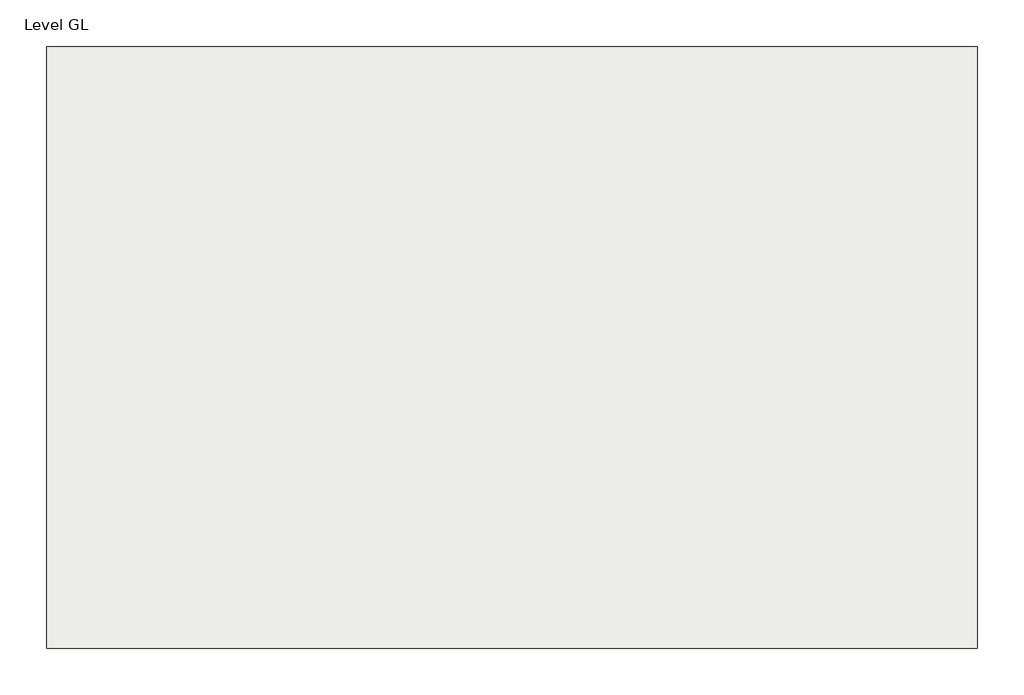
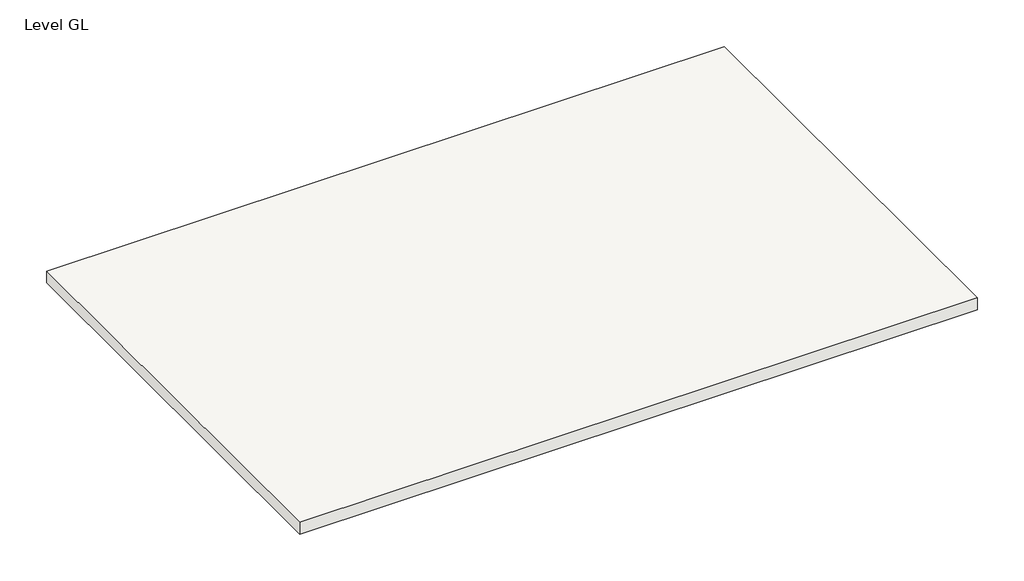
# One storey: 1 slab.
"""IFC4 building model written with IfcOpenShell, lengths in millimetres."""

import ifcopenshell
import ifcopenshell.guid

model = None  # the IFC model being written
_history = None  # IfcOwnerHistory: only IFC2X3 demands one
_inside = {}  # id of a spatial element -> (the spatial element, [elements in it])
_under = {}  # id of a project, library or spatial element -> (it, [spatial elements below it])
_declared = {}  # id of a project -> (the project, [libraries it declares])
_typed = {}  # id of a type object -> (the type object, [elements of that type])
_made_of = {}  # id of a material, layer set ... -> (it, [elements and type objects made of it])


def new_model(schema):
    """Start an empty IFC model of exactly this schema.

    Asked for "IFC4X3", IfcOpenShell would pick the latest addendum, in which some entities
    have other attributes; the version numbers below select the first issue.
    IFC2X3 requires an IfcOwnerHistory on every rooted entity: one is made here for all.
    """
    global model, _history
    if schema == "IFC4X3":
        model = ifcopenshell.file(schema_version=(4, 3, 0, 0))
    else:
        model = ifcopenshell.file(schema=schema)
    _inside.clear()
    _under.clear()
    _declared.clear()
    _typed.clear()
    _made_of.clear()
    _history = None
    if model.schema == "IFC2X3":
        org = make("IfcOrganization", Name="unknown")
        user = make(
            "IfcPersonAndOrganization",
            ThePerson=make("IfcPerson", FamilyName="unknown"),
            TheOrganization=org,
        )
        app = make(
            "IfcApplication",
            ApplicationDeveloper=org,
            Version="unknown",
            ApplicationFullName="unknown",
            ApplicationIdentifier="unknown",
        )
        _history = make(
            "IfcOwnerHistory",
            OwningUser=user,
            OwningApplication=app,
            ChangeAction="ADDED",
            CreationDate=0,
        )
    return model


def make(cls, **values):
    """One entity of the class cls with the attributes given. An attribute that is None is left unset."""
    return model.create_entity(
        cls, **{name: value for name, value in values.items() if value is not None}
    )


def rooted(cls, **values):
    """An entity with a GlobalId (a new one), such as an element, a storey or a relation."""
    return make(cls, GlobalId=ifcopenshell.guid.new(), OwnerHistory=_history, **values)


def si_unit(unit_type, name, prefix=None):
    """IfcSIUnit, for example si_unit("LENGTHUNIT", "METRE", prefix="MILLI")."""
    return make("IfcSIUnit", UnitType=unit_type, Prefix=prefix, Name=name)


def assignment(units):
    """IfcUnitAssignment: the units of a project."""
    return None if units is None else make("IfcUnitAssignment", Units=units)


def point(xyz):
    """IfcCartesianPoint."""
    return None if xyz is None else make("IfcCartesianPoint", Coordinates=xyz)


def direction(xyz):
    """IfcDirection."""
    return None if xyz is None else make("IfcDirection", DirectionRatios=xyz)


def frame(location, z_axis=None, x_axis=None):
    """IfcAxis2Placement3D, a coordinate frame: its origin and axes. An axis left out is left unset."""
    return make(
        "IfcAxis2Placement3D",
        Location=point(location),
        Axis=direction(z_axis),
        RefDirection=direction(x_axis),
    )


def origin():
    """The frame at (0, 0, 0) with its axes left unset."""
    return frame((0.0, 0.0, 0.0))


def place(relative_to, where):
    """IfcLocalPlacement: puts the frame where relative to a parent placement (None: the world)."""
    return make(
        "IfcLocalPlacement", PlacementRelTo=relative_to, RelativePlacement=where
    )


def context(
    kind, dimensions, precision=None, world=None, true_north=None, identifier=None
):
    """IfcGeometricRepresentationContext, for example the 3D "Model" context."""
    return make(
        "IfcGeometricRepresentationContext",
        ContextIdentifier=identifier,
        ContextType=kind,
        CoordinateSpaceDimension=dimensions,
        Precision=precision,
        WorldCoordinateSystem=world,
        TrueNorth=true_north,
    )


def project(units=None, contexts=None):
    """IfcProject with its units and contexts."""
    return rooted(
        "IfcProject",
        Name="project",
        RepresentationContexts=contexts,
        UnitsInContext=assignment(units),
    )


def spatial(cls, under=None, at=None, **own):
    """A site, building, storey or space (cls), placed at a placement, below another one or the project."""
    s = rooted(cls, ObjectPlacement=at, **own)
    if under is not None:
        _under.setdefault(under.id(), (under, []))[1].append(s)
    return s


def polyline(points):
    """IfcPolyline through the points."""
    return make("IfcPolyline", Points=[point(p) for p in points])


def outline(outer, holes=None, kind="AREA"):
    """IfcArbitraryClosedProfileDef: a profile drawn as a closed curve; with holes, ...WithVoids."""
    if holes is None:
        return make("IfcArbitraryClosedProfileDef", ProfileType=kind, OuterCurve=outer)
    return make(
        "IfcArbitraryProfileDefWithVoids",
        ProfileType=kind,
        OuterCurve=outer,
        InnerCurves=holes,
    )


def extrude(swept, where, along, depth):
    """IfcExtrudedAreaSolid: the profile swept, set in the frame where, extruded along a direction by depth."""
    return make(
        "IfcExtrudedAreaSolid",
        SweptArea=swept,
        Position=where,
        ExtrudedDirection=direction(along),
        Depth=depth,
    )


def shape(context_of_items, identifier, shape_type, items):
    """IfcShapeRepresentation: the items that make up one representation, for example the "Body"."""
    return make(
        "IfcShapeRepresentation",
        ContextOfItems=context_of_items,
        RepresentationIdentifier=identifier,
        RepresentationType=shape_type,
        Items=items,
    )


def made_of(thing, what):
    """Note that an element or type object is made of a material, layer set ...; save() writes the relation."""
    if what is not None:
        _made_of.setdefault(what.id(), (what, []))[1].append(thing)
    return thing


def element(
    cls,
    number,
    at=None,
    inside=None,
    cuts=None,
    type_object=None,
    material=None,
    context=None,
    identifier="Body",
    shape_type=None,
    held_by="IfcProductDefinitionShape",
    body=None,
    shapes=None,
    **own,
):
    """One element of the class cls, such as IfcWall. Its Tag is "e" and its number.

    at: its placement. inside: the storey or other place that contains it. cuts: it is an
    opening in that element (IfcRelVoidsElement). A single representation is given by context,
    identifier, shape_type and body (its items); several are given by shapes. held_by: the class
    of the entity that holds the representations. save() writes the other relations.
    """
    e = rooted(cls, Tag="e%d" % number, ObjectPlacement=at, **own)
    if body is not None:
        shapes = [shape(context, identifier, shape_type, body)]
    if shapes is not None:
        e.Representation = make(held_by, Representations=shapes)
    if inside is not None:
        _inside.setdefault(inside.id(), (inside, []))[1].append(e)
    if cuts is not None:
        rooted(
            "IfcRelVoidsElement", RelatingBuildingElement=cuts, RelatedOpeningElement=e
        )
    if type_object is not None:
        _typed.setdefault(type_object.id(), (type_object, []))[1].append(e)
    return made_of(e, material)


def aggregate(whole, parts):
    """IfcRelAggregates: a whole, such as a stair, and the parts it consists of."""
    return rooted("IfcRelAggregates", RelatingObject=whole, RelatedObjects=parts)


def save(model, path):
    """Write the relations noted so far, then the file.

    IfcRelAggregates (storeys below a building ...), IfcRelContainedInSpatialStructure (elements
    in a storey), IfcRelDefinesByType, IfcRelAssociatesMaterial and IfcRelDeclares: one each for
    every whole, place, type object, material and project.
    """
    for whole, parts in _under.values():
        aggregate(whole, parts)
    for where, things in _inside.values():
        rooted(
            "IfcRelContainedInSpatialStructure",
            RelatedElements=things,
            RelatingStructure=where,
        )
    for kind, things in _typed.values():
        rooted("IfcRelDefinesByType", RelatedObjects=things, RelatingType=kind)
    for what, things in _made_of.values():
        rooted("IfcRelAssociatesMaterial", RelatedObjects=things, RelatingMaterial=what)
    for by, libraries in _declared.values():
        rooted("IfcRelDeclares", RelatingContext=by, RelatedDefinitions=libraries)
    model.write(path)


model = new_model("IFC4")

# Units and contexts
model_context = context("Model", 3, world=origin())
ifc_project = project(units=[si_unit("LENGTHUNIT", "METRE", prefix="MILLI")], contexts=[model_context])

# Site, building, storey
site = spatial("IfcSite", under=ifc_project)
building = spatial("IfcBuilding", under=site)
storey = spatial("IfcBuildingStorey", under=building, Name="Level GL", Elevation=0.0)

# Slab
placement = place(None, origin())
element("IfcSlab", 1, ObjectType="Concrete-Domestic 425mm", at=placement, inside=storey, context=model_context, shape_type="SweptSolid", body=[
    extrude(outline(polyline([(11327.7427983, -2902.3098165), (11327.7427983, -17702.3098165), (-11572.2572017, -17702.3098165), (-11572.2572017, -2902.3098165), (11327.7427983, -2902.3098165)])), frame((0.0, 0.0, -425.0), z_axis=(0.0, 0.0, 1.0), x_axis=(1.0, 0.0, 0.0)), (0.0, 0.0, 1.0), 425.0),
])

save(model, "model.ifc")
